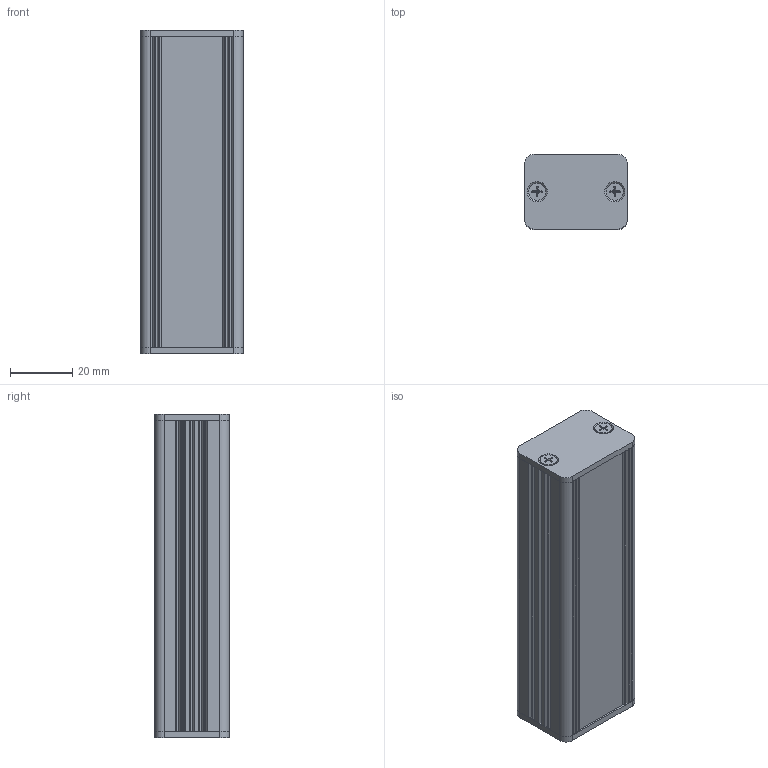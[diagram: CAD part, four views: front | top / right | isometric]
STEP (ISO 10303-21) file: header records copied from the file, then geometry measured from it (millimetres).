
FILE_DESCRIPTION((''),'2;1');
FILE_NAME('C:\Dokumente und Einstellungen\Lochen\Desktop\AKG\AKG_33_24_100.stp','2015-01-15T13:34:51',('Lochen'),(''),'Autodesk Inventor 2012','Autodesk Inventor 2012','');
FILE_SCHEMA(('AUTOMOTIVE_DESIGN { 1 0 10303 214 1 1 1 1 }'));
Length unit declared in the file: millimetre
Products named in the file (4): 001037634; 001032030; L0015SGD000020A; DIN EN ISO 7046-1 H M3 x 10 - 4.8 - H
Assembly tree (8 placements, depth 2):
  001037634
    001032030  x2
    L0015SGD000020A  x2
    DIN EN ISO 7046-1 H M3 x 10 - 4.8 - H  x4
Bounding box: 33 x 24 x 104 mm (x, y, z)
Volume: 25134.5 mm3; surface area: 31587.3 mm2
Topology: 8 solids, 8 shells, 380 faces, 1064 edges, 700 vertices
Faces by surface type: plane 158, cylinder 150, cone 52, torus 20
Full cylindrical faces by diameter (mm): 2.693 x4, 3 x4, 3.4 x4, 5.5 x4
Entity records: 5410 total; most frequent: CARTESIAN_POINT 1034, DIRECTION 928, ORIENTED_EDGE 880, EDGE_CURVE 440, AXIS2_PLACEMENT_3D 336, VERTEX_POINT 298, VECTOR 256, LINE 256
